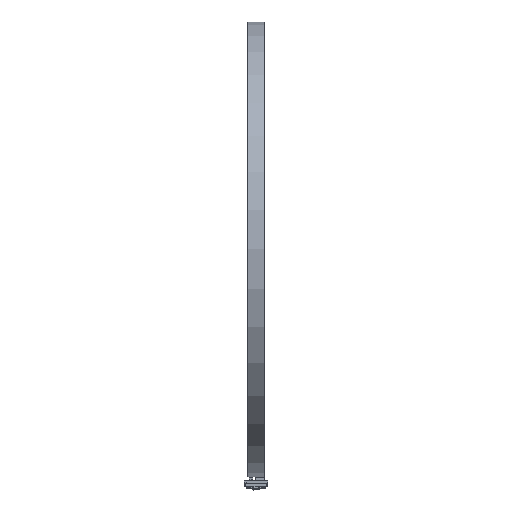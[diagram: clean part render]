
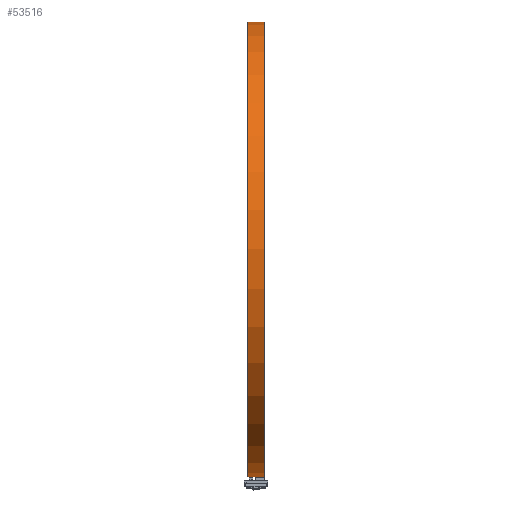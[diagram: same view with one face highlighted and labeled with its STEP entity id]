
A CAD part, left-side view. The second image highlights one B-rep face of the part: STEP entity #53516.
In plain terms, the highlighted cylindrical face has radius 162.75 mm (diameter 325.5 mm), a partial arc.
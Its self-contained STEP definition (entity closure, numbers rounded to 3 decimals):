
#139 = CARTESIAN_POINT ( 'NONE',  ( 0., 12., -162.75 ) ) ;
#618 = CARTESIAN_POINT ( 'NONE',  ( 0., 0., -162.75 ) ) ;
#1022 = AXIS2_PLACEMENT_3D ( 'NONE', #46101, #46548, #73046 ) ;
#4184 = DIRECTION ( 'NONE',  ( 0., 0., -1. ) ) ;
#6368 = DIRECTION ( 'NONE',  ( 0., 0., -1. ) ) ;
#10823 = DIRECTION ( 'NONE',  ( 0., -1., 0. ) ) ;
#11096 = ORIENTED_EDGE ( 'NONE', *, *, #83753, .T. ) ;
#13428 = LINE ( 'NONE', #618, #66038 ) ;
#13879 = DIRECTION ( 'NONE',  ( 0., -1., 0. ) ) ;
#24502 = LINE ( 'NONE', #44819, #75222 ) ;
#28064 = VERTEX_POINT ( 'NONE', #75064 ) ;
#37454 = ORIENTED_EDGE ( 'NONE', *, *, #64423, .T. ) ;
#37482 = EDGE_LOOP ( 'NONE', ( #64095, #37454, #11096, #85708 ) ) ;
#41893 = CIRCLE ( 'NONE', #1022, 162.75 ) ;
#43937 = EDGE_CURVE ( 'NONE', #71007, #28064, #41893, .T. ) ;
#44819 = CARTESIAN_POINT ( 'NONE',  ( 0., 0., 162.75 ) ) ;
#46101 = CARTESIAN_POINT ( 'NONE',  ( 0., 0., 0. ) ) ;
#46548 = DIRECTION ( 'NONE',  ( 0., -1., 0. ) ) ;
#49368 = VERTEX_POINT ( 'NONE', #50884 ) ;
#50884 = CARTESIAN_POINT ( 'NONE',  ( 0., 12., 162.75 ) ) ;
#53160 = CARTESIAN_POINT ( 'NONE',  ( 0., 0., 162.75 ) ) ;
#53516 = ADVANCED_FACE ( 'NONE', ( #62893 ), #83264, .T. ) ;
#59206 = AXIS2_PLACEMENT_3D ( 'NONE', #80575, #13879, #6368 ) ;
#62893 = FACE_OUTER_BOUND ( 'NONE', #37482, .T. ) ;
#64095 = ORIENTED_EDGE ( 'NONE', *, *, #72975, .F. ) ;
#64210 = CARTESIAN_POINT ( 'NONE',  ( 0., 0., 0. ) ) ;
#64423 = EDGE_CURVE ( 'NONE', #49368, #81252, #70527, .T. ) ;
#66038 = VECTOR ( 'NONE', #80993, 1000. ) ;
#70527 = CIRCLE ( 'NONE', #59206, 162.75 ) ;
#71007 = VERTEX_POINT ( 'NONE', #53160 ) ;
#71778 = DIRECTION ( 'NONE',  ( 0., -1., 0. ) ) ;
#72975 = EDGE_CURVE ( 'NONE', #49368, #71007, #24502, .T. ) ;
#73046 = DIRECTION ( 'NONE',  ( 0., 0., -1. ) ) ;
#75064 = CARTESIAN_POINT ( 'NONE',  ( 0., 0., -162.75 ) ) ;
#75222 = VECTOR ( 'NONE', #71778, 1000. ) ;
#80575 = CARTESIAN_POINT ( 'NONE',  ( 0., 12., 0. ) ) ;
#80993 = DIRECTION ( 'NONE',  ( 0., -1., 0. ) ) ;
#81252 = VERTEX_POINT ( 'NONE', #139 ) ;
#83264 = CYLINDRICAL_SURFACE ( 'NONE', #85286, 162.75 ) ;
#83753 = EDGE_CURVE ( 'NONE', #81252, #28064, #13428, .T. ) ;
#85286 = AXIS2_PLACEMENT_3D ( 'NONE', #64210, #10823, #4184 ) ;
#85708 = ORIENTED_EDGE ( 'NONE', *, *, #43937, .F. ) ;
